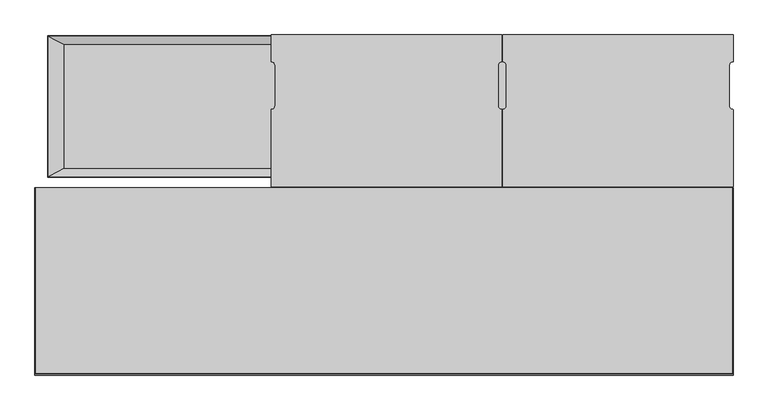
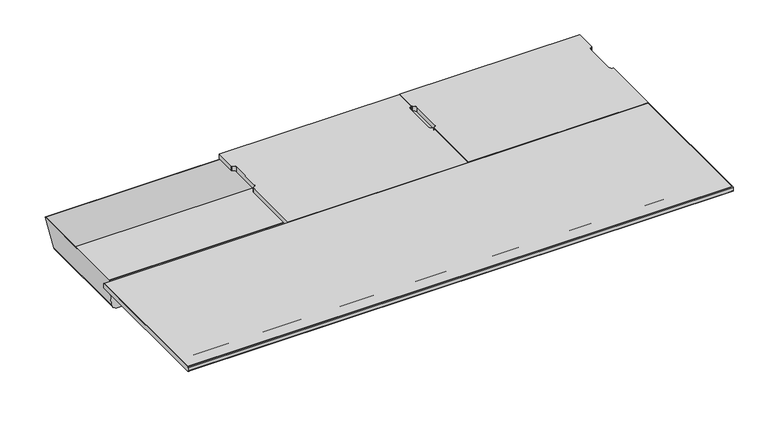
"""IFC4 building model written with IfcOpenShell, lengths in millimetres: furniture geometry, Steelcase Turnstone - Bivi - Table - Back Pocket : 28 1/2D x 58 1/2W x 7 1/4H."""

import ifcopenshell
import ifcopenshell.guid

model = None  # the IFC model being written
_history = None  # IfcOwnerHistory: only IFC2X3 demands one
_inside = {}  # id of a spatial element -> (the spatial element, [elements in it])
_under = {}  # id of a project, library or spatial element -> (it, [spatial elements below it])
_declared = {}  # id of a project -> (the project, [libraries it declares])
_typed = {}  # id of a type object -> (the type object, [elements of that type])
_made_of = {}  # id of a material, layer set ... -> (it, [elements and type objects made of it])


def new_model(schema):
    """Start an empty IFC model of exactly this schema.

    Asked for "IFC4X3", IfcOpenShell would pick the latest addendum, in which some entities
    have other attributes; the version numbers below select the first issue.
    IFC2X3 requires an IfcOwnerHistory on every rooted entity: one is made here for all.
    """
    global model, _history
    if schema == "IFC4X3":
        model = ifcopenshell.file(schema_version=(4, 3, 0, 0))
    else:
        model = ifcopenshell.file(schema=schema)
    _inside.clear()
    _under.clear()
    _declared.clear()
    _typed.clear()
    _made_of.clear()
    _history = None
    if model.schema == "IFC2X3":
        org = make("IfcOrganization", Name="unknown")
        user = make(
            "IfcPersonAndOrganization",
            ThePerson=make("IfcPerson", FamilyName="unknown"),
            TheOrganization=org,
        )
        app = make(
            "IfcApplication",
            ApplicationDeveloper=org,
            Version="unknown",
            ApplicationFullName="unknown",
            ApplicationIdentifier="unknown",
        )
        _history = make(
            "IfcOwnerHistory",
            OwningUser=user,
            OwningApplication=app,
            ChangeAction="ADDED",
            CreationDate=0,
        )
    return model


def make(cls, **values):
    """One entity of the class cls with the attributes given. An attribute that is None is left unset."""
    return model.create_entity(
        cls, **{name: value for name, value in values.items() if value is not None}
    )


def rooted(cls, **values):
    """An entity with a GlobalId (a new one), such as an element, a storey or a relation."""
    return make(cls, GlobalId=ifcopenshell.guid.new(), OwnerHistory=_history, **values)


def si_unit(unit_type, name, prefix=None):
    """IfcSIUnit, for example si_unit("LENGTHUNIT", "METRE", prefix="MILLI")."""
    return make("IfcSIUnit", UnitType=unit_type, Prefix=prefix, Name=name)


def assignment(units):
    """IfcUnitAssignment: the units of a project."""
    return None if units is None else make("IfcUnitAssignment", Units=units)


def point(xyz):
    """IfcCartesianPoint."""
    return None if xyz is None else make("IfcCartesianPoint", Coordinates=xyz)


def direction(xyz):
    """IfcDirection."""
    return None if xyz is None else make("IfcDirection", DirectionRatios=xyz)


def frame(location, z_axis=None, x_axis=None):
    """IfcAxis2Placement3D, a coordinate frame: its origin and axes. An axis left out is left unset."""
    return make(
        "IfcAxis2Placement3D",
        Location=point(location),
        Axis=direction(z_axis),
        RefDirection=direction(x_axis),
    )


def frame_2d(location, x_axis=None):
    """IfcAxis2Placement2D, a coordinate frame in the plane: its origin and x axis."""
    return make(
        "IfcAxis2Placement2D", Location=point(location), RefDirection=direction(x_axis)
    )


def origin():
    """The frame at (0, 0, 0) with its axes left unset."""
    return frame((0.0, 0.0, 0.0))


def place(relative_to, where):
    """IfcLocalPlacement: puts the frame where relative to a parent placement (None: the world)."""
    return make(
        "IfcLocalPlacement", PlacementRelTo=relative_to, RelativePlacement=where
    )


def context(
    kind, dimensions, precision=None, world=None, true_north=None, identifier=None
):
    """IfcGeometricRepresentationContext, for example the 3D "Model" context."""
    return make(
        "IfcGeometricRepresentationContext",
        ContextIdentifier=identifier,
        ContextType=kind,
        CoordinateSpaceDimension=dimensions,
        Precision=precision,
        WorldCoordinateSystem=world,
        TrueNorth=true_north,
    )


def project(units=None, contexts=None):
    """IfcProject with its units and contexts."""
    return rooted(
        "IfcProject",
        Name="project",
        RepresentationContexts=contexts,
        UnitsInContext=assignment(units),
    )


def spatial(cls, under=None, at=None, **own):
    """A site, building, storey or space (cls), placed at a placement, below another one or the project."""
    s = rooted(cls, ObjectPlacement=at, **own)
    if under is not None:
        _under.setdefault(under.id(), (under, []))[1].append(s)
    return s


def polyline(points):
    """IfcPolyline through the points."""
    return make("IfcPolyline", Points=[point(p) for p in points])


def circle_curve(where, radius):
    """IfcCircle in the frame where."""
    return make("IfcCircle", Position=where, Radius=radius)


def ellipse_curve(where, semi_axis1, semi_axis2):
    """IfcEllipse in the frame where."""
    return make(
        "IfcEllipse", Position=where, SemiAxis1=semi_axis1, SemiAxis2=semi_axis2
    )


def trimmed(basis, trim1, trim2, sense, master):
    """IfcTrimmedCurve: the piece of a basis curve between two trims."""
    return make(
        "IfcTrimmedCurve",
        BasisCurve=basis,
        Trim1=trim1,
        Trim2=trim2,
        SenseAgreement=sense,
        MasterRepresentation=master,
    )


def segment(curve, same_sense, transition):
    """IfcCompositeCurveSegment."""
    return make(
        "IfcCompositeCurveSegment",
        Transition=transition,
        SameSense=same_sense,
        ParentCurve=curve,
    )


def composite_curve(segments, self_intersect=None):
    """IfcCompositeCurve: segments joined end to end."""
    return make("IfcCompositeCurve", Segments=segments, SelfIntersect=self_intersect)


def outline(outer, holes=None, kind="AREA"):
    """IfcArbitraryClosedProfileDef: a profile drawn as a closed curve; with holes, ...WithVoids."""
    if holes is None:
        return make("IfcArbitraryClosedProfileDef", ProfileType=kind, OuterCurve=outer)
    return make(
        "IfcArbitraryProfileDefWithVoids",
        ProfileType=kind,
        OuterCurve=outer,
        InnerCurves=holes,
    )


def extrude(swept, where, along, depth):
    """IfcExtrudedAreaSolid: the profile swept, set in the frame where, extruded along a direction by depth."""
    return make(
        "IfcExtrudedAreaSolid",
        SweptArea=swept,
        Position=where,
        ExtrudedDirection=direction(along),
        Depth=depth,
    )


def shape(context_of_items, identifier, shape_type, items):
    """IfcShapeRepresentation: the items that make up one representation, for example the "Body"."""
    return make(
        "IfcShapeRepresentation",
        ContextOfItems=context_of_items,
        RepresentationIdentifier=identifier,
        RepresentationType=shape_type,
        Items=items,
    )


def source(mapping_origin, context_of_items, identifier, shape_type, items):
    """IfcRepresentationMap: a shape defined once, which mapped items show again and again."""
    return make(
        "IfcRepresentationMap",
        MappingOrigin=mapping_origin,
        MappedRepresentation=shape(context_of_items, identifier, shape_type, items),
    )


def transform(
    local_origin,
    x_axis=None,
    y_axis=None,
    z_axis=None,
    scale=None,
    scale2=None,
    scale3=None,
    uniform=True,
):
    """IfcCartesianTransformationOperator3D, or its non-uniform kind. x_axis, y_axis, z_axis: its Axis1, 2, 3."""
    if uniform:
        return make(
            "IfcCartesianTransformationOperator3D",
            Axis1=direction(x_axis),
            Axis2=direction(y_axis),
            LocalOrigin=point(local_origin),
            Scale=scale,
            Axis3=direction(z_axis),
        )
    return make(
        "IfcCartesianTransformationOperator3DnonUniform",
        Axis1=direction(x_axis),
        Axis2=direction(y_axis),
        LocalOrigin=point(local_origin),
        Scale=scale,
        Axis3=direction(z_axis),
        Scale2=scale2,
        Scale3=scale3,
    )


def mapped(mapping_source, mapping_target):
    """IfcMappedItem: shows the shape of a source again, moved by a transform."""
    return make(
        "IfcMappedItem", MappingSource=mapping_source, MappingTarget=mapping_target
    )


def made_of(thing, what):
    """Note that an element or type object is made of a material, layer set ...; save() writes the relation."""
    if what is not None:
        _made_of.setdefault(what.id(), (what, []))[1].append(thing)
    return thing


def element(
    cls,
    number,
    at=None,
    inside=None,
    cuts=None,
    type_object=None,
    material=None,
    context=None,
    identifier="Body",
    shape_type=None,
    held_by="IfcProductDefinitionShape",
    body=None,
    shapes=None,
    **own,
):
    """One element of the class cls, such as IfcWall. Its Tag is "e" and its number.

    at: its placement. inside: the storey or other place that contains it. cuts: it is an
    opening in that element (IfcRelVoidsElement). A single representation is given by context,
    identifier, shape_type and body (its items); several are given by shapes. held_by: the class
    of the entity that holds the representations. save() writes the other relations.
    """
    e = rooted(cls, Tag="e%d" % number, ObjectPlacement=at, **own)
    if body is not None:
        shapes = [shape(context, identifier, shape_type, body)]
    if shapes is not None:
        e.Representation = make(held_by, Representations=shapes)
    if inside is not None:
        _inside.setdefault(inside.id(), (inside, []))[1].append(e)
    if cuts is not None:
        rooted(
            "IfcRelVoidsElement", RelatingBuildingElement=cuts, RelatedOpeningElement=e
        )
    if type_object is not None:
        _typed.setdefault(type_object.id(), (type_object, []))[1].append(e)
    return made_of(e, material)


def aggregate(whole, parts):
    """IfcRelAggregates: a whole, such as a stair, and the parts it consists of."""
    return rooted("IfcRelAggregates", RelatingObject=whole, RelatedObjects=parts)


def save(model, path):
    """Write the relations noted so far, then the file.

    IfcRelAggregates (storeys below a building ...), IfcRelContainedInSpatialStructure (elements
    in a storey), IfcRelDefinesByType, IfcRelAssociatesMaterial and IfcRelDeclares: one each for
    every whole, place, type object, material and project.
    """
    for whole, parts in _under.values():
        aggregate(whole, parts)
    for where, things in _inside.values():
        rooted(
            "IfcRelContainedInSpatialStructure",
            RelatedElements=things,
            RelatingStructure=where,
        )
    for kind, things in _typed.values():
        rooted("IfcRelDefinesByType", RelatedObjects=things, RelatingType=kind)
    for what, things in _made_of.values():
        rooted("IfcRelAssociatesMaterial", RelatedObjects=things, RelatingMaterial=what)
    for by, libraries in _declared.values():
        rooted("IfcRelDeclares", RelatingContext=by, RelatedDefinitions=libraries)
    model.write(path)


def plane_surface(at):
    """IfcPlane: the flat surface through the origin of the frame at, square to its z axis."""
    return make("IfcPlane", Position=at)


def cylinder_surface(at, radius):
    """IfcCylindricalSurface: all points at the distance radius from the z axis of the frame at."""
    return make("IfcCylindricalSurface", Position=at, Radius=radius)


def advanced_brep(points, edges, surfaces, faces):
    """IfcAdvancedBrep: a solid bounded by faces that lie on surfaces and meet in shared edges.

    An edge is (start, end): straight between two places in points (the first is 0);
    or (start, end, curve); or (start, end, curve, False) where it runs against its curve.
    A face is (place in surfaces, loops), or (place, loops, False) where it looks against
    its surface's normal. A loop lists edges by number (the first is 1), with a minus sign
    where the edge is run from its end to its start. The first loop is the outer one.
    """
    corners = [point(p) for p in points]
    vertices = [make("IfcVertexPoint", VertexGeometry=c) for c in corners]
    made = []
    for start, end, *more in edges:
        made.append(
            make(
                "IfcEdgeCurve",
                EdgeStart=vertices[start],
                EdgeEnd=vertices[end],
                EdgeGeometry=more[0] if more else make("IfcPolyline", Points=[corners[start], corners[end]]),
                SameSense=more[1] if len(more) > 1 else True,
            )
        )
    hull = []
    for where, loops, *sense in faces:
        bounds = []
        for j, loop in enumerate(loops):
            ring = [make("IfcOrientedEdge", EdgeElement=made[abs(k) - 1], Orientation=k > 0) for k in loop]
            bounds.append(
                make(
                    "IfcFaceOuterBound" if j == 0 else "IfcFaceBound",
                    Bound=make("IfcEdgeLoop", EdgeList=ring),
                    Orientation=True,
                )
            )
        hull.append(make("IfcAdvancedFace", Bounds=bounds, FaceSurface=surfaces[where], SameSense=sense[0] if sense else True))
    return make("IfcAdvancedBrep", Outer=make("IfcClosedShell", CfsFaces=hull))


def furniture_1dee7e2f(model_context):
    return source(origin(), model_context, "Body", "SolidModel", [
        advanced_brep(
        [(0.0, 5.1713161, 709.2950048), (0.0, 3.1750061, 711.2913149), (0.0, 3.1750061, 720.1986205), (0.0, 5.3523507, 722.3759651), (0.0, 401.6375121, 722.3759651), (0.0, 401.6375121, 709.2950048), (1485.9, 5.3523507, 722.3759651), (1485.9, 3.1750061, 720.1986205), (1485.9, 3.1750061, 711.2913149), (1485.9, 5.1713161, 709.2950048), (1485.9, 401.6375121, 709.2950048), (1485.9, 401.6375121, 722.3759651), (1.0, 401.6375121, 709.2950048), (1.0, 6.1750061, 709.2950048), (1484.9, 6.1750061, 709.2950048), (1484.9, 401.6375121, 709.2950048), (1484.9, 401.6375121, 722.3759651), (1484.9, 6.1750061, 722.3759651), (1.0, 6.1750061, 722.3759651), (1.0, 401.6375121, 722.3759651)],
        [
            (0, 1, circle_curve(frame((0.0, 5.1713161, 711.2913149), z_axis=(-1.0, 0.0, 0.0), x_axis=(0.0, -1.0, 0.0)), 1.99631)),
            (1, 2),
            (2, 3, circle_curve(frame((0.0, 5.3523507, 720.1986205), z_axis=(-1.0, 0.0, 0.0), x_axis=(0.0, -1.0, 0.0)), 2.1773446)),
            (3, 4),
            (4, 5),
            (5, 0),
            (6, 7, circle_curve(frame((1485.9, 5.3523507, 720.1986205), z_axis=(1.0, 0.0, 0.0), x_axis=(0.0, -1.0, 0.0)), 2.1773446)),
            (7, 8),
            (8, 9, circle_curve(frame((1485.9, 5.1713161, 711.2913149), z_axis=(1.0, 0.0, 0.0), x_axis=(0.0, -1.0, 0.0)), 1.99631)),
            (9, 10),
            (10, 11),
            (11, 6),
            (5, 12),
            (12, 13),
            (13, 14),
            (14, 15),
            (15, 10),
            (9, 0),
            (8, 1),
            (7, 2),
            (6, 3),
            (11, 16),
            (16, 17),
            (17, 18),
            (18, 19),
            (19, 4),
            (17, 14),
            (13, 18),
            (15, 16),
            (19, 12),
        ],
        [
            plane_surface(frame((0.0, 6.1750061, 0.0), z_axis=(-1.0, 0.0, 0.0), x_axis=(0.0, 0.0, 1.0))),
            plane_surface(frame((1485.9, 6.1750061, 0.0), z_axis=(1.0, 0.0, 0.0), x_axis=(0.0, 0.0, 1.0))),
            plane_surface(frame((0.0, 6.1750061, 709.2950048), z_axis=(0.0, 0.0, -1.0), x_axis=(1.0, 0.0, 0.0))),
            cylinder_surface(frame((0.0, 5.1713161, 711.2913149), z_axis=(-1.0, 0.0, 0.0), x_axis=(0.0, -1.0, 0.0)), 1.99631),
            plane_surface(frame((0.0, 3.1750061, 711.2913149), z_axis=(0.0, -1.0, 0.0), x_axis=(1.0, 0.0, 0.0))),
            cylinder_surface(frame((0.0, 5.3523507, 720.1986205), z_axis=(-1.0, 0.0, 0.0), x_axis=(0.0, -1.0, 0.0)), 2.1773446),
            plane_surface(frame((0.0, 5.3523507, 722.3759651), z_axis=(0.0, 0.0, 1.0), x_axis=(1.0, 0.0, 0.0))),
            plane_surface(frame((0.0, 6.1750061, 722.3759651), z_axis=(0.0, 1.0, 0.0), x_axis=(1.0, 0.0, 0.0))),
            plane_surface(frame((1484.9, 401.6375121, 0.0), z_axis=(0.0, 1.0, 0.0), x_axis=(0.0, 0.0, 1.0))),
            plane_surface(frame((1484.9, 6.1750061, 722.3759651), z_axis=(-1.0, 0.0, 0.0), x_axis=(0.0, 1.0, 0.0))),
            plane_surface(frame((1.0, 401.6375121, 0.0), z_axis=(0.0, 1.0, 0.0), x_axis=(0.0, 0.0, 1.0))),
            plane_surface(frame((1.0, 401.6375121, 722.3759651), z_axis=(1.0, 0.0, 0.0), x_axis=(0.0, -1.0, 0.0))),
        ],
        [
            (0, [[1, 2, 3, 4, 5, 6]]),
            (1, [[7, 8, 9, 10, 11, 12]]),
            (2, [[-6, 13, 14, 15, 16, 17, -10, 18]]),
            (3, [[-1, -18, -9, 19]]),
            (4, [[-2, -19, -8, 20]]),
            (5, [[-3, -20, -7, 21]]),
            (6, [[-4, -21, -12, 22, 23, 24, 25, 26]]),
            (7, [[27, -15, 28, -24]]),
            (8, [[-11, -17, 29, -22]]),
            (9, [[-29, -16, -27, -23]]),
            (10, [[-5, -26, 30, -13]]),
            (11, [[-30, -25, -28, -14]]),
        ],
    ),
        advanced_brep(
        [(27.0348483, 423.8594761, 708.533), (27.0348483, 725.4475164, 708.533), (41.839906, 710.6424626, 624.5693636), (41.839906, 438.6645306, 624.5693636), (62.1013405, 707.6446639, 607.5680019), (62.1013405, 441.6623294, 607.5680019), (1414.4187757, 707.6446639, 607.5680019), (1414.4187757, 441.6623294, 607.5680019), (1434.7185331, 710.6481327, 624.6015202), (1434.7185331, 438.6588605, 624.6015202), (1449.5179206, 725.4475164, 708.533), (1449.5179206, 423.8594761, 708.533), (1447.9704111, 425.4069853, 708.533), (28.5823578, 425.4069853, 708.533), (28.5823578, 723.900008, 708.533), (1447.9704111, 723.900008, 708.533), (62.1013405, 443.2498294, 609.0920005), (1414.4187757, 443.2498294, 609.0920005), (1414.4187757, 706.3794487, 609.0920005), (62.1013405, 706.3794487, 609.0920005)],
        [
            (0, 1),
            (1, 2),
            (2, 3),
            (3, 0),
            (2, 4, ellipse_curve(frame((62.1013405, 711.2724152, 628.1420019), z_axis=(0.0, -0.9848077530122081, 0.17364817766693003), x_axis=(0.0, -0.17364817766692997, -0.9848077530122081)), 20.8913871, 20.574)),
            (4, 5),
            (5, 3, ellipse_curve(frame((62.1013405, 438.0345781, 628.1420019), z_axis=(0.0, 0.9848077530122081, 0.1736481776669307), x_axis=(0.0, -0.17364817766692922, 0.9848077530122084)), 20.8913871, 20.574)),
            (4, 6),
            (6, 7),
            (7, 5),
            (6, 8, ellipse_curve(frame((1414.4187757, 711.2792767, 628.1809159), z_axis=(0.0, -0.9848077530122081, 0.17364817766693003), x_axis=(0.0, -0.17364817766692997, -0.9848077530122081)), 20.9309014, 20.6129139)),
            (8, 9),
            (9, 7, ellipse_curve(frame((1414.4187757, 438.0277165, 628.1809159), z_axis=(0.0, 0.9848077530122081, 0.1736481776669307), x_axis=(0.0, -0.17364817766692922, 0.9848077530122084)), 20.9309014, 20.6129139)),
            (10, 11),
            (11, 9),
            (8, 10),
            (0, 11),
            (10, 1),
            (12, 13),
            (13, 14),
            (14, 15),
            (15, 12),
            (16, 17),
            (17, 18),
            (18, 19),
            (19, 16),
            (16, 13),
            (12, 17),
            (15, 18),
            (14, 19),
        ],
        [
            plane_surface(frame((27.0348483, 423.8594761, 708.533), z_axis=(-0.984807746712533, 0.0, -0.1736482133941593), x_axis=(0.0, 1.0, 0.0))),
            cylinder_surface(frame((62.1013405, 725.4475164, 628.1420019), z_axis=(0.0, -1.0, 0.0), x_axis=(1.0, 0.0, 0.0)), 20.574),
            plane_surface(frame((62.1013405, 423.8594761, 607.5680019), z_axis=(0.0, 0.0, -1.0), x_axis=(0.0, 1.0, 0.0))),
            cylinder_surface(frame((1414.4187757, 725.4475164, 628.1809159), z_axis=(0.0, -1.0, 0.0), x_axis=(1.0, 0.0, 0.0)), 20.6129139),
            plane_surface(frame((1434.7185331, 423.8594761, 624.6015202), z_axis=(0.9848077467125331, 0.0, -0.17364821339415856), x_axis=(0.0, 1.0, 0.0))),
            plane_surface(frame((1449.5179206, 423.8594761, 708.533), z_axis=(0.0, 0.0, 1.0), x_axis=(0.0, 1.0, 0.0))),
            plane_surface(frame((1476.5527508, 725.4475171, 708.533), z_axis=(0.0, 0.9848077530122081, -0.17364817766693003), x_axis=(-1.0, 0.0, 0.0))),
            plane_surface(frame((1476.5527508, 441.6623297, 607.568), z_axis=(0.0, -0.9848077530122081, -0.1736481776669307), x_axis=(-1.0, 0.0, 0.0))),
            plane_surface(frame((738.2600581, 574.8146391, 609.0920005), z_axis=(0.0, 0.0, 1.0), x_axis=(1.0, 0.0, 0.0))),
            plane_surface(frame((738.2600581, 443.2498294, 609.0920005), z_axis=(0.0, 0.9842807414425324, 0.1766109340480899), x_axis=(1.0, 0.0, 0.0))),
            plane_surface(frame((1414.4187757, 574.8146391, 609.0920005), z_axis=(-0.9475202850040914, 0.0, 0.31969565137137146), x_axis=(0.0, 1.0, 0.0))),
            plane_surface(frame((738.2600581, 706.3794487, 609.0920005), z_axis=(0.0, -0.9848307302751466, 0.17351781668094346), x_axis=(-1.0, 0.0, 0.0))),
            plane_surface(frame((62.1013405, 574.8146391, 609.0920005), z_axis=(0.947614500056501, 0.0, 0.31941627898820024), x_axis=(0.0, -1.0, 0.0))),
        ],
        [
            (0, [[1, 2, 3, 4]]),
            (1, [[-3, 5, 6, 7]]),
            (2, [[-6, 8, 9, 10]]),
            (3, [[-9, 11, 12, 13]]),
            (4, [[14, 15, -12, 16]]),
            (5, [[-1, 17, -14, 18], [19, 20, 21, 22]]),
            (6, [[-2, -18, -16, -11, -8, -5]]),
            (7, [[-4, -7, -10, -13, -15, -17]]),
            (8, [[23, 24, 25, 26]]),
            (9, [[-23, 27, -19, 28]]),
            (10, [[-24, -28, -22, 29]]),
            (11, [[-25, -29, -21, 30]]),
            (12, [[-26, -30, -20, -27]]),
        ],
    ),
        extrude(outline(composite_curve([segment(polyline([(136.8298021, 707.00903), (118.5340828, 707.00903)]), True, "CONTINUOUS"), segment(trimmed(circle_curve(frame_2d((118.5340828, 706.2547494)), 0.7542806), [point((118.5340828, 707.00903))], [point((117.7798021, 706.2547494))], True, "CARTESIAN"), True, "CONTINUOUS"), segment(polyline([(117.7798021, 706.2547494), (117.7798021, 674.2648849)]), True, "CONTINUOUS"), segment(trimmed(circle_curve(frame_2d((114.7352888, 674.2648849)), 3.0445134), [point((117.7798021, 674.2648849))], [point((114.7352888, 671.2203715))], False, "CARTESIAN"), True, "CONTINUOUS"), segment(polyline([(114.7352888, 671.2203715), (97.1392408, 671.2203715)]), True, "CONTINUOUS"), segment(trimmed(circle_curve(frame_2d((97.1392408, 674.1935856)), 2.9732141), [point((97.1392408, 671.2203715))], [point((95.4144966, 671.7717558))], False, "CARTESIAN"), True, "CONTINUOUS"), segment(polyline([(95.4144966, 671.7717558), (61.2321059, 696.1152827)]), True, "CONTINUOUS"), segment(trimmed(circle_curve(frame_2d((63.0817596, 698.7125064)), 3.1885404), [point((61.2321059, 696.1152827))], [point((59.8932192, 698.7125064))], False, "CARTESIAN"), True, "CONTINUOUS"), segment(polyline([(59.8932192, 698.7125064), (59.8932192, 706.2440144)]), True, "CONTINUOUS"), segment(trimmed(circle_curve(frame_2d((59.1282035, 706.2440144)), 0.7650157), [point((59.8932192, 706.2440144))], [point((59.1282035, 707.00903))], True, "CARTESIAN"), True, "CONTINUOUS"), segment(polyline([(59.1282035, 707.00903), (40.8432192, 707.00903), (40.8432192, 709.2950048), (58.9447947, 709.2950048)]), True, "CONTINUOUS"), segment(trimmed(circle_curve(frame_2d((58.9447947, 706.0859625)), 3.2090423), [point((58.9447947, 709.2950048))], [point((62.153837, 706.0859625))], False, "CARTESIAN"), True, "CONTINUOUS"), segment(polyline([(62.153837, 706.0859625), (62.153837, 698.7291862)]), True, "CONTINUOUS"), segment(trimmed(circle_curve(frame_2d((63.1140729, 698.7291862)), 0.9602358), [point((62.153837, 698.7291862))], [point((62.5570456, 697.9470266))], True, "CARTESIAN"), True, "CONTINUOUS"), segment(polyline([(62.5570456, 697.9470266), (96.5157806, 673.7627798)]), True, "CONTINUOUS"), segment(trimmed(circle_curve(frame_2d((97.3972282, 675.0004799)), 1.5194906), [point((96.5157806, 673.7627798))], [point((97.3972282, 673.4809893))], True, "CARTESIAN"), True, "CONTINUOUS"), segment(polyline([(97.3972282, 673.4809893), (114.7835426, 673.4809893)]), True, "CONTINUOUS"), segment(trimmed(circle_curve(frame_2d((114.7835426, 674.216631)), 0.7356417), [point((114.7835426, 673.4809893))], [point((115.5191843, 674.216631))], True, "CARTESIAN"), True, "CONTINUOUS"), segment(polyline([(115.5191843, 674.216631), (115.5191843, 706.1995486)]), True, "CONTINUOUS"), segment(trimmed(circle_curve(frame_2d((118.6146405, 706.1995486)), 3.0954562), [point((115.5191843, 706.1995486))], [point((118.6146405, 709.2950048))], False, "CARTESIAN"), True, "CONTINUOUS"), segment(polyline([(118.6146405, 709.2950048), (136.8298021, 709.2950048), (136.8298021, 707.00903)]), True, "CONTINUOUS")], self_intersect=False)), frame((48.3465188, 0.0, 0.0), z_axis=(1.0, 0.0, 0.0), x_axis=(0.0, 1.0, 0.0)), (0.0, 0.0, 1.0), 1379.8804),
        extrude(outline(composite_curve([segment(polyline([(1485.9, 727.0750061), (1485.9, 670.4176904)]), True, "CONTINUOUS"), segment(trimmed(circle_curve(frame_2d((1485.357477, 670.4176904)), 0.542523), [point((1485.9, 670.4176904))], [point((1485.357477, 669.8751674))], False, "CARTESIAN"), True, "CONTINUOUS"), segment(trimmed(circle_curve(frame_2d((1485.8665922, 662.0002082)), 7.8913992), [point((1485.357477, 669.8751674))], [point((1477.975193, 662.0002082))], True, "CARTESIAN"), True, "CONTINUOUS"), segment(polyline([(1477.975193, 662.0002082), (1477.975193, 576.2498009)]), True, "CONTINUOUS"), segment(trimmed(circle_curve(frame_2d((1485.8665922, 576.2498009)), 7.8913992), [point((1477.975193, 576.2498009))], [point((1485.357477, 568.3748417))], True, "CARTESIAN"), True, "CONTINUOUS"), segment(trimmed(circle_curve(frame_2d((1485.357477, 567.8323187)), 0.542523), [point((1485.357477, 568.3748417))], [point((1485.9, 567.8323187))], False, "CARTESIAN"), True, "CONTINUOUS"), segment(polyline([(1485.9, 567.8323187), (1485.9, 403.9870053), (995.3752172, 403.9870053), (995.3752172, 567.8323187)]), True, "CONTINUOUS"), segment(trimmed(circle_curve(frame_2d((995.9177402, 567.8323187)), 0.542523), [point((995.3752172, 567.8323187))], [point((995.9177402, 568.3748417))], False, "CARTESIAN"), True, "CONTINUOUS"), segment(trimmed(circle_curve(frame_2d((995.408625, 576.2498009)), 7.8913992), [point((995.9177402, 568.3748417))], [point((1003.3000242, 576.2498009))], True, "CARTESIAN"), True, "CONTINUOUS"), segment(polyline([(1003.3000242, 576.2498009), (1003.3000242, 662.0002082)]), True, "CONTINUOUS"), segment(trimmed(circle_curve(frame_2d((995.408625, 662.0002082)), 7.8913992), [point((1003.3000242, 662.0002082))], [point((995.9177402, 669.8751674))], True, "CARTESIAN"), True, "CONTINUOUS"), segment(trimmed(circle_curve(frame_2d((995.9177402, 670.4176904)), 0.542523), [point((995.9177402, 669.8751674))], [point((995.3752172, 670.4176904))], False, "CARTESIAN"), True, "CONTINUOUS"), segment(polyline([(995.3752172, 670.4176904), (995.3752172, 727.0750061), (1485.9, 727.0750061)]), True, "CONTINUOUS")], self_intersect=False)), frame((0.0, 0.0, 709.2950048), z_axis=(0.0, 0.0, 1.0), x_axis=(1.0, 0.0, 0.0)), (0.0, 0.0, 1.0), 13.0809603),
        extrude(outline(composite_curve([segment(polyline([(993.6734316, 727.0750061), (993.6734316, 670.4176904)]), True, "CONTINUOUS"), segment(trimmed(circle_curve(frame_2d((993.1309086, 670.4176904)), 0.542523), [point((993.6734316, 670.4176904))], [point((993.1309086, 669.8751674))], False, "CARTESIAN"), True, "CONTINUOUS"), segment(trimmed(circle_curve(frame_2d((993.6400238, 662.0002082)), 7.8913992), [point((993.1309086, 669.8751674))], [point((985.7486246, 662.0002082))], True, "CARTESIAN"), True, "CONTINUOUS"), segment(polyline([(985.7486246, 662.0002082), (985.7486246, 576.2498009)]), True, "CONTINUOUS"), segment(trimmed(circle_curve(frame_2d((993.6400238, 576.2498009)), 7.8913992), [point((985.7486246, 576.2498009))], [point((993.1309086, 568.3748417))], True, "CARTESIAN"), True, "CONTINUOUS"), segment(trimmed(circle_curve(frame_2d((993.1309086, 567.8323187)), 0.542523), [point((993.1309086, 568.3748417))], [point((993.6734316, 567.8323187))], False, "CARTESIAN"), True, "CONTINUOUS"), segment(polyline([(993.6734316, 567.8323187), (993.6734316, 403.9870053), (503.1486488, 403.9870053), (503.1486488, 567.8323187)]), True, "CONTINUOUS"), segment(trimmed(circle_curve(frame_2d((503.6911718, 567.8323187)), 0.542523), [point((503.1486488, 567.8323187))], [point((503.6911718, 568.3748417))], False, "CARTESIAN"), True, "CONTINUOUS"), segment(trimmed(circle_curve(frame_2d((503.1820566, 576.2498009)), 7.8913992), [point((503.6911718, 568.3748417))], [point((511.0734558, 576.2498009))], True, "CARTESIAN"), True, "CONTINUOUS"), segment(polyline([(511.0734558, 576.2498009), (511.0734558, 662.0002082)]), True, "CONTINUOUS"), segment(trimmed(circle_curve(frame_2d((503.1820566, 662.0002082)), 7.8913992), [point((511.0734558, 662.0002082))], [point((503.6911718, 669.8751674))], True, "CARTESIAN"), True, "CONTINUOUS"), segment(trimmed(circle_curve(frame_2d((503.6911718, 670.4176904)), 0.542523), [point((503.6911718, 669.8751674))], [point((503.1486488, 670.4176904))], False, "CARTESIAN"), True, "CONTINUOUS"), segment(polyline([(503.1486488, 670.4176904), (503.1486488, 727.0750061), (993.6734316, 727.0750061)]), True, "CONTINUOUS")], self_intersect=False)), frame((0.0, 0.0, 709.2950048), z_axis=(0.0, 0.0, 1.0), x_axis=(1.0, 0.0, 0.0)), (0.0, 0.0, 1.0), 13.0809603),
        extrude(outline(polyline([(1484.9, 401.6375121), (1484.9, 6.1750061), (1.0, 6.1750061), (1.0, 401.6375121), (1484.9, 401.6375121)])), frame((0.0, 0.0, 709.2950048), z_axis=(0.0, 0.0, 1.0), x_axis=(1.0, 0.0, 0.0)), (0.0, 0.0, 1.0), 13.0809603),
    ])


if __name__ == "__main__":
    model = new_model("IFC4")
    model_context = context("Model", 3, world=origin())
    ifc_project = project(units=[si_unit("LENGTHUNIT", "METRE", prefix="MILLI")], contexts=[model_context])
    site = spatial("IfcSite", under=ifc_project)
    building = spatial("IfcBuilding", under=site)
    placement = place(None, origin())
    furniture_shape = furniture_1dee7e2f(model_context)
    element("IfcFurniture", 1, ObjectType="Steelcase Turnstone - Bivi - Table - Back Pocket : 28 1/2D x 58 1/2W x 7 1/4H", at=placement, inside=building, context=model_context, shape_type="MappedRepresentation", body=[
        mapped(furniture_shape, transform((0.0, 0.0, 0.0), x_axis=(1.0, 0.0, 0.0), y_axis=(0.0, 1.0, 0.0), z_axis=(0.0, 0.0, 1.0))),
    ])
    save(model, "model.ifc")
